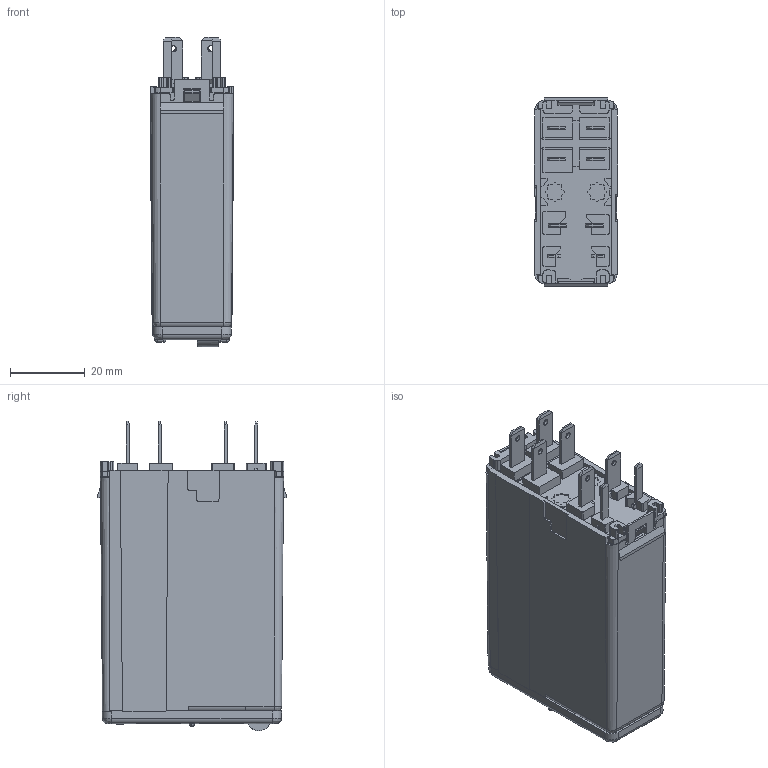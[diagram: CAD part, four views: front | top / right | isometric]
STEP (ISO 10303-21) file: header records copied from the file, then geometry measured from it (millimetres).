
FILE_DESCRIPTION (( 'STEP AP203' ), '1' );
FILE_NAME ('RELE CD2.STEP', '2014-06-17T05:47:46', ( '' ), ( '' ), 'SwSTEP 2.0', 'SolidWorks 2013', '' );
FILE_SCHEMA (( 'CONFIG_CONTROL_DESIGN' ));
Length unit declared in the file: millimetre
Products named in the file (1): RELE CD2
Bounding box: 22.5 x 50.38 x 82.92 mm (x, y, z)
Volume: 71100.5 mm3; surface area: 14433.4 mm2
Topology: 1 solids, 7 shells, 835 faces, 2325 edges, 1510 vertices
Faces by surface type: plane 534, cylinder 191, bspline 94, cone 16
Entity records: 28848 total; most frequent: CARTESIAN_POINT 9343, ORIENTED_EDGE 4634, DIRECTION 3093, EDGE_CURVE 2317, VECTOR 1525, LINE 1525, VERTEX_POINT 1510, EDGE_LOOP 865
